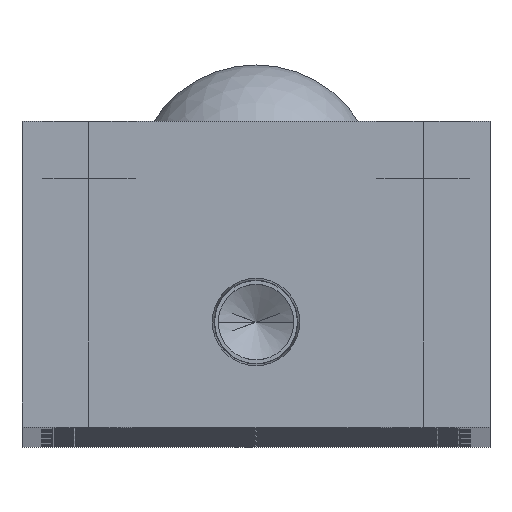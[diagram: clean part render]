
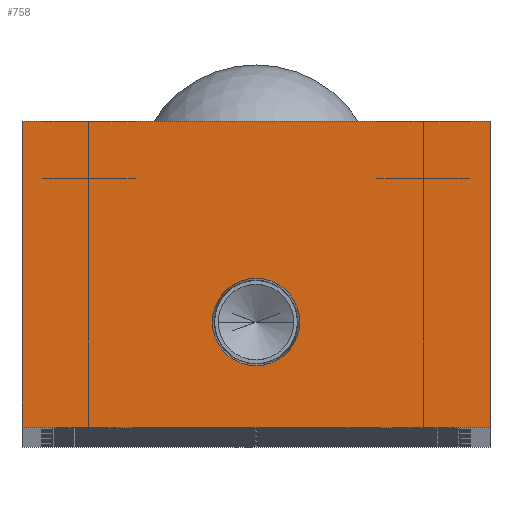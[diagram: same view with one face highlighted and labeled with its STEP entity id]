
A CAD part, top view. The second image highlights one B-rep face of the part: STEP entity #758.
In plain terms, the highlighted planar face has unit normal (0, 0, 1).
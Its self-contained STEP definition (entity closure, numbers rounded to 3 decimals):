
#65 = DIRECTION ( 'NONE',  ( 0., 1., 0. ) ) ;
#758 = ADVANCED_FACE ( 'NONE', ( #22902, #11858 ), #28280, .F. ) ;
#1241 = ORIENTED_EDGE ( 'NONE', *, *, #19225, .T. ) ;
#1712 = ORIENTED_EDGE ( 'NONE', *, *, #3221, .T. ) ;
#1855 = EDGE_LOOP ( 'NONE', ( #7873, #22638 ) ) ;
#1892 = DIRECTION ( 'NONE',  ( 0., 0., -1. ) ) ;
#3071 = DIRECTION ( 'NONE',  ( 0., 0., 1. ) ) ;
#3221 = EDGE_CURVE ( 'NONE', #25970, #17493, #6462, .T. ) ;
#5279 = EDGE_CURVE ( 'NONE', #15067, #24623, #20346, .T. ) ;
#6062 = CARTESIAN_POINT ( 'NONE',  ( 24.5, 0., 0. ) ) ;
#6374 = LINE ( 'NONE', #21304, #17414 ) ;
#6462 = LINE ( 'NONE', #15434, #12317 ) ;
#7120 = VERTEX_POINT ( 'NONE', #20190 ) ;
#7227 = DIRECTION ( 'NONE',  ( 0., -1., 0. ) ) ;
#7563 = CARTESIAN_POINT ( 'NONE',  ( -24.5, 0., 0. ) ) ;
#7873 = ORIENTED_EDGE ( 'NONE', *, *, #19283, .F. ) ;
#8181 = DIRECTION ( 'NONE',  ( 1., 0., 0. ) ) ;
#8197 = EDGE_LOOP ( 'NONE', ( #1241, #27499, #1712, #12402 ) ) ;
#8420 = CARTESIAN_POINT ( 'NONE',  ( 0., 0., 0. ) ) ;
#9130 = DIRECTION ( 'NONE',  ( -1., 0., 0. ) ) ;
#9575 = CARTESIAN_POINT ( 'NONE',  ( 24.5, 32., 0. ) ) ;
#11425 = CARTESIAN_POINT ( 'NONE',  ( 0., 11., 0. ) ) ;
#11858 = FACE_OUTER_BOUND ( 'NONE', #8197, .T. ) ;
#12292 = CIRCLE ( 'NONE', #12561, 4.574 ) ;
#12317 = VECTOR ( 'NONE', #65, 1000. ) ;
#12402 = ORIENTED_EDGE ( 'NONE', *, *, #15168, .T. ) ;
#12561 = AXIS2_PLACEMENT_3D ( 'NONE', #16281, #3071, #18476 ) ;
#13549 = VECTOR ( 'NONE', #9130, 1000. ) ;
#13658 = DIRECTION ( 'NONE',  ( 1., 0., 0. ) ) ;
#15067 = VERTEX_POINT ( 'NONE', #19737 ) ;
#15168 = EDGE_CURVE ( 'NONE', #17493, #7120, #25282, .T. ) ;
#15434 = CARTESIAN_POINT ( 'NONE',  ( 24.5, 32., 0. ) ) ;
#16281 = CARTESIAN_POINT ( 'NONE',  ( 0., 11., 0. ) ) ;
#17304 = DIRECTION ( 'NONE',  ( -1., 0., 0. ) ) ;
#17414 = VECTOR ( 'NONE', #8181, 1000. ) ;
#17493 = VERTEX_POINT ( 'NONE', #9575 ) ;
#18476 = DIRECTION ( 'NONE',  ( 1., 0., 0. ) ) ;
#19171 = AXIS2_PLACEMENT_3D ( 'NONE', #8420, #1892, #17304 ) ;
#19225 = EDGE_CURVE ( 'NONE', #7120, #19980, #25422, .T. ) ;
#19283 = EDGE_CURVE ( 'NONE', #24623, #15067, #12292, .T. ) ;
#19537 = VECTOR ( 'NONE', #7227, 1000. ) ;
#19737 = CARTESIAN_POINT ( 'NONE',  ( -4.574, 11., 0. ) ) ;
#19980 = VERTEX_POINT ( 'NONE', #7563 ) ;
#19982 = CARTESIAN_POINT ( 'NONE',  ( 4.574, 11., 0. ) ) ;
#20190 = CARTESIAN_POINT ( 'NONE',  ( -24.5, 32., 0. ) ) ;
#20346 = CIRCLE ( 'NONE', #27221, 4.574 ) ;
#21304 = CARTESIAN_POINT ( 'NONE',  ( 24.5, 0., 0. ) ) ;
#22341 = CARTESIAN_POINT ( 'NONE',  ( -24.5, 32., 0. ) ) ;
#22638 = ORIENTED_EDGE ( 'NONE', *, *, #5279, .F. ) ;
#22643 = CARTESIAN_POINT ( 'NONE',  ( -24.5, 0., 0. ) ) ;
#22902 = FACE_BOUND ( 'NONE', #1855, .T. ) ;
#24623 = VERTEX_POINT ( 'NONE', #19982 ) ;
#25282 = LINE ( 'NONE', #22341, #13549 ) ;
#25422 = LINE ( 'NONE', #22643, #19537 ) ;
#25970 = VERTEX_POINT ( 'NONE', #6062 ) ;
#26843 = DIRECTION ( 'NONE',  ( 0., 0., 1. ) ) ;
#27221 = AXIS2_PLACEMENT_3D ( 'NONE', #11425, #26843, #13658 ) ;
#27326 = EDGE_CURVE ( 'NONE', #19980, #25970, #6374, .T. ) ;
#27499 = ORIENTED_EDGE ( 'NONE', *, *, #27326, .T. ) ;
#28280 = PLANE ( 'NONE',  #19171 ) ;
